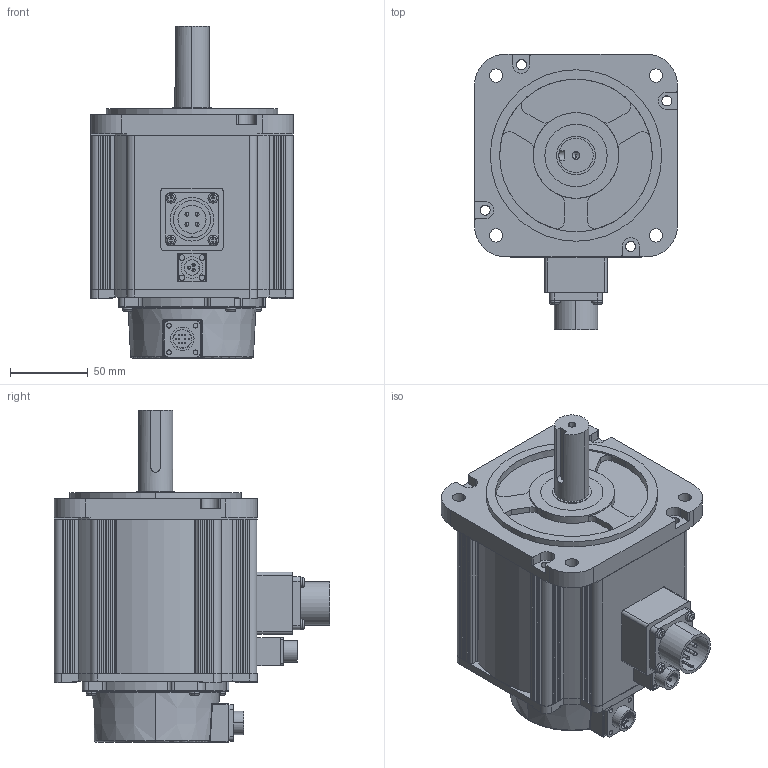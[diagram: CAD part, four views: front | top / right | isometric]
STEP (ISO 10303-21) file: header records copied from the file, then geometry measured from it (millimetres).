
FILE_DESCRIPTION (( 'STEP AP203' ), '1' );
FILE_NAME ('130E-05415 - Z.STEP', '2024-09-05T11:11:40', ( '' ), ( '' ), 'SwSTEP 2.0', 'SolidWorks 2018', '' );
FILE_SCHEMA (( 'CONFIG_CONTROL_DESIGN' ));
Length unit declared in the file: millimetre
Products named in the file (12): 100惕掅菁釱; 蚐猾; 130Aǰ; 130A綴裔潠謹; SC-CMV1-R10P-E; 儂褲-5.4N.M -Z; 130A諉盄釱-1; 130E-05415 - Z; 18-10; 堤粣; XS12J3Z; 橈勤硉晤鎢ん誘欶  S13E.10-01
Assembly tree (11 placements, depth 2):
  130E-05415 - Z
    130A綴裔潠謹
    130A諉盄釱-1
    130Aǰ
    堤粣
    蚐猾
    XS12J3Z
    100惕掅菁釱
    儂褲-5.4N.M -Z
    18-10
    SC-CMV1-R10P-E
    橈勤硉晤鎢ん誘欶  S13E.10-01
Bounding box: 130.2 x 176.9 x 213 mm (x, y, z)
Volume: 669556.1 mm3; surface area: 288809.2 mm2
Topology: 11 solids, 15 shells, 975 faces, 2606 edges, 1701 vertices
Faces by surface type: plane 537, cylinder 357, torus 45, sphere 18, cone 10, bspline 8
Entity records: 32640 total; most frequent: CARTESIAN_POINT 6397, DIRECTION 5326, ORIENTED_EDGE 5132, EDGE_CURVE 2566, AXIS2_PLACEMENT_3D 1822, VERTEX_POINT 1683, LINE 1682, VECTOR 1682
